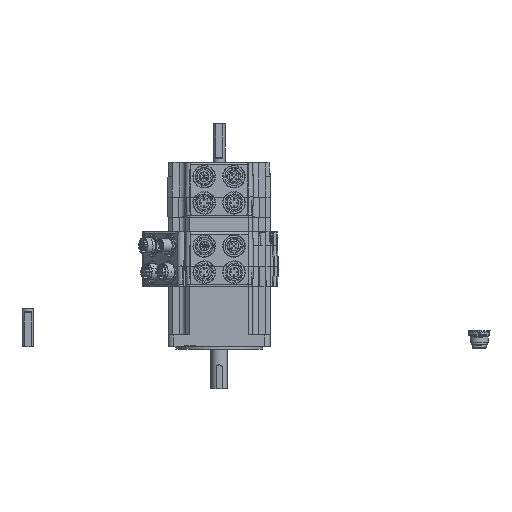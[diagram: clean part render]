
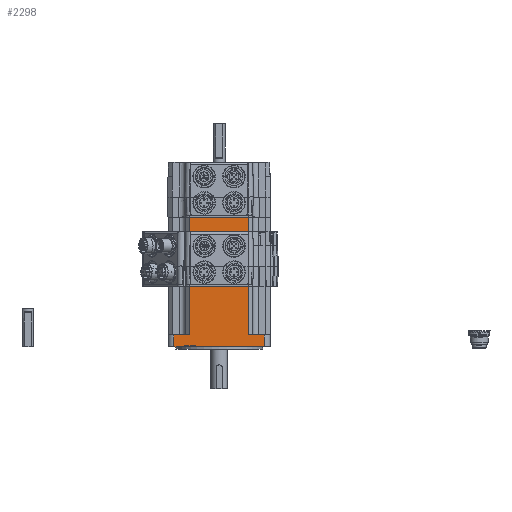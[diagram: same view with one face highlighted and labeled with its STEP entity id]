
A CAD part, top view. The second image highlights one B-rep face of the part: STEP entity #2298.
In plain terms, the highlighted planar face has unit normal (0, 0, 1).
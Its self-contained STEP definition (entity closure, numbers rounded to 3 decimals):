
#2298 = ADVANCED_FACE( '', ( #5095 ), #5096, .F. );
#5095 = FACE_OUTER_BOUND( '', #8734, .T. );
#5096 = PLANE( '', #8735 );
#8734 = EDGE_LOOP( '', ( #15337, #15338, #15339, #15340, #15341, #15342, #15343, #15344, #15345, #15346, #15347, #15348 ) );
#8735 = AXIS2_PLACEMENT_3D( '', #15349, #15350, #15351 );
#15337 = ORIENTED_EDGE( '', *, *, #21552, .T. );
#15338 = ORIENTED_EDGE( '', *, *, #21662, .F. );
#15339 = ORIENTED_EDGE( '', *, *, #21663, .F. );
#15340 = ORIENTED_EDGE( '', *, *, #21664, .T. );
#15341 = ORIENTED_EDGE( '', *, *, #21597, .T. );
#15342 = ORIENTED_EDGE( '', *, *, #21665, .T. );
#15343 = ORIENTED_EDGE( '', *, *, #21666, .F. );
#15344 = ORIENTED_EDGE( '', *, *, #20505, .T. );
#15345 = ORIENTED_EDGE( '', *, *, #21595, .T. );
#15346 = ORIENTED_EDGE( '', *, *, #20592, .F. );
#15347 = ORIENTED_EDGE( '', *, *, #21667, .F. );
#15348 = ORIENTED_EDGE( '', *, *, #20537, .T. );
#15349 = CARTESIAN_POINT( '', ( 46.966, 176.743, 106.964 ) );
#15350 = DIRECTION( '', ( 0., 0., -1. ) );
#15351 = DIRECTION( '', ( -1., 0., 0. ) );
#20505 = EDGE_CURVE( '', #24796, #24797, #24798, .T. );
#20537 = EDGE_CURVE( '', #24847, #24845, #24848, .T. );
#20592 = EDGE_CURVE( '', #24929, #24930, #24931, .T. );
#21552 = EDGE_CURVE( '', #24845, #26264, #26266, .T. );
#21595 = EDGE_CURVE( '', #24797, #24930, #26320, .T. );
#21597 = EDGE_CURVE( '', #26323, #26321, #26324, .T. );
#21662 = EDGE_CURVE( '', #26400, #26264, #26401, .T. );
#21663 = EDGE_CURVE( '', #26402, #26400, #26403, .T. );
#21664 = EDGE_CURVE( '', #26402, #26323, #26404, .T. );
#21665 = EDGE_CURVE( '', #26321, #26405, #26406, .T. );
#21666 = EDGE_CURVE( '', #24796, #26405, #26407, .T. );
#21667 = EDGE_CURVE( '', #24847, #24929, #26408, .T. );
#24796 = VERTEX_POINT( '', #30597 );
#24797 = VERTEX_POINT( '', #30598 );
#24798 = LINE( '', #30599, #30600 );
#24845 = VERTEX_POINT( '', #30663 );
#24847 = VERTEX_POINT( '', #30666 );
#24848 = LINE( '', #30667, #30668 );
#24929 = VERTEX_POINT( '', #30820 );
#24930 = VERTEX_POINT( '', #30821 );
#24931 = LINE( '', #30822, #30823 );
#26264 = VERTEX_POINT( '', #32754 );
#26266 = LINE( '', #32757, #32758 );
#26320 = LINE( '', #32832, #32833 );
#26321 = VERTEX_POINT( '', #32834 );
#26323 = VERTEX_POINT( '', #32837 );
#26324 = LINE( '', #32838, #32839 );
#26400 = VERTEX_POINT( '', #32942 );
#26401 = LINE( '', #32943, #32944 );
#26402 = VERTEX_POINT( '', #32945 );
#26403 = LINE( '', #32946, #32947 );
#26404 = LINE( '', #32948, #32949 );
#26405 = VERTEX_POINT( '', #32950 );
#26406 = LINE( '', #32951, #32952 );
#26407 = LINE( '', #32953, #32954 );
#26408 = LINE( '', #32955, #32956 );
#30597 = CARTESIAN_POINT( '', ( 26.966, 1., 106.964 ) );
#30598 = CARTESIAN_POINT( '', ( 26.966, 0., 106.964 ) );
#30599 = CARTESIAN_POINT( '', ( 26.966, 4., 106.964 ) );
#30600 = VECTOR( '', #36386, 1000. );
#30663 = CARTESIAN_POINT( '', ( 71.666, 108.5, 106.964 ) );
#30666 = CARTESIAN_POINT( '', ( 71.666, 9.91, 106.964 ) );
#30667 = CARTESIAN_POINT( '', ( 71.666, -127.06, 106.964 ) );
#30668 = VECTOR( '', #36425, 1000. );
#30820 = CARTESIAN_POINT( '', ( 84.966, 9.91, 106.964 ) );
#30821 = CARTESIAN_POINT( '', ( 84.966, 0., 106.964 ) );
#30822 = CARTESIAN_POINT( '', ( 84.966, 176.743, 106.964 ) );
#30823 = VECTOR( '', #36483, 1000. );
#32754 = CARTESIAN_POINT( '', ( 22.266, 108.5, 106.964 ) );
#32757 = CARTESIAN_POINT( '', ( 71.666, 108.5, 106.964 ) );
#32758 = VECTOR( '', #37698, 1000. );
#32832 = CARTESIAN_POINT( '', ( 46.966, 0., 106.964 ) );
#32833 = VECTOR( '', #37758, 1000. );
#32834 = CARTESIAN_POINT( '', ( 17.966, 0., 106.964 ) );
#32837 = CARTESIAN_POINT( '', ( 8.966, 0., 106.964 ) );
#32838 = CARTESIAN_POINT( '', ( 46.966, 0., 106.964 ) );
#32839 = VECTOR( '', #37760, 1000. );
#32942 = CARTESIAN_POINT( '', ( 22.266, 9.9, 106.964 ) );
#32943 = CARTESIAN_POINT( '', ( 22.266, -127.06, 106.964 ) );
#32944 = VECTOR( '', #37821, 1000. );
#32945 = CARTESIAN_POINT( '', ( 8.966, 9.9, 106.964 ) );
#32946 = CARTESIAN_POINT( '', ( 8.966, 9.9, 106.964 ) );
#32947 = VECTOR( '', #37822, 1000. );
#32948 = CARTESIAN_POINT( '', ( 8.966, 176.743, 106.964 ) );
#32949 = VECTOR( '', #37823, 1000. );
#32950 = CARTESIAN_POINT( '', ( 17.966, 1., 106.964 ) );
#32951 = CARTESIAN_POINT( '', ( 17.966, 4., 106.964 ) );
#32952 = VECTOR( '', #37824, 1000. );
#32953 = CARTESIAN_POINT( '', ( 22.466, 1., 106.964 ) );
#32954 = VECTOR( '', #37825, 1000. );
#32955 = CARTESIAN_POINT( '', ( 71.466, 9.91, 106.964 ) );
#32956 = VECTOR( '', #37826, 1000. );
#36386 = DIRECTION( '', ( 0., -1., 0. ) );
#36425 = DIRECTION( '', ( 0., 1., 0. ) );
#36483 = DIRECTION( '', ( 0., -1., 0. ) );
#37698 = DIRECTION( '', ( -1., 0., 0. ) );
#37758 = DIRECTION( '', ( 1., 0., 0. ) );
#37760 = DIRECTION( '', ( 1., 0., 0. ) );
#37821 = DIRECTION( '', ( 0., 1., 0. ) );
#37822 = DIRECTION( '', ( 1., 0., 0. ) );
#37823 = DIRECTION( '', ( 0., -1., 0. ) );
#37824 = DIRECTION( '', ( 0., 1., 0. ) );
#37825 = DIRECTION( '', ( -1., 0., 0. ) );
#37826 = DIRECTION( '', ( 1., 0., 0. ) );
